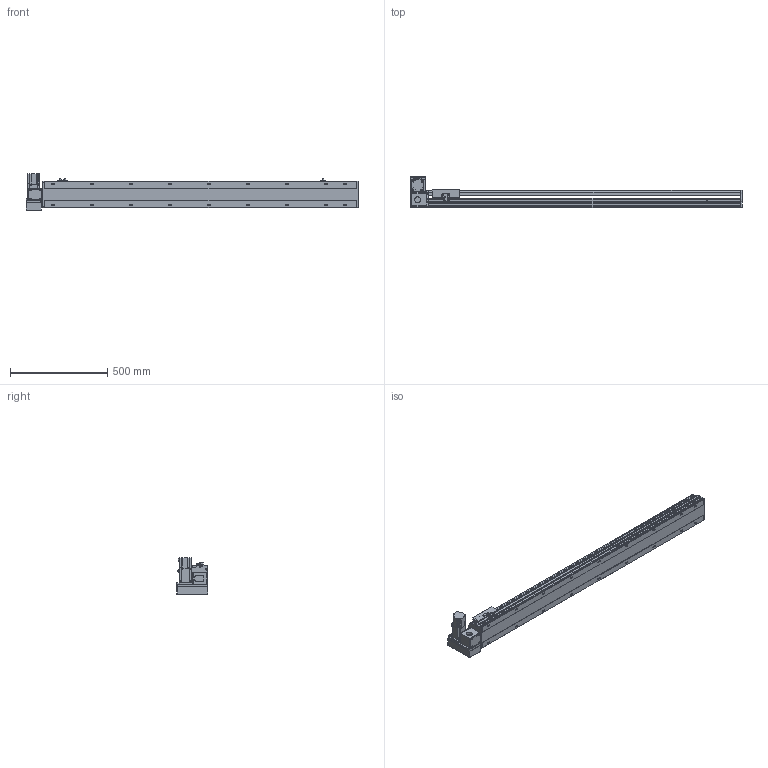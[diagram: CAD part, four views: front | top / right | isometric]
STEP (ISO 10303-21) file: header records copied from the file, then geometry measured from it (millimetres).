
FILE_DESCRIPTION(/* description */ ('STEP AP214'),/* implementation_level */ '2;1');
FILE_NAME(/* name */ 'PBS140S-P40-S1350-LU-T40-C1-N(0)',/* time_stamp */ '2022-06-09T02:34:35+02:00',/* author */ ('License CC BY-ND 4.0'),/* organization */ ('CADENAS'),/* preprocessor_version */ 'ST-DEVELOPER v18.102',/* originating_system */ 'PARTsolutions',/* authorisation */ ' ');
FILE_SCHEMA (('AUTOMOTIVE_DESIGN {1 0 10303 214 3 1 1}'));
Length unit declared in the file: millimetre
Products named in the file (7): PBS140S-P40-S1350-LU-T40-C1-N(0); PBS140S_sensor; PBS140S_plant; PBS140S_sliser; T40-p1; PBS140ST-LU_motors; PBS140S-S1350()_body
Assembly tree (8 placements, depth 2):
  PBS140S-P40-S1350-LU-T40-C1-N(0)
    PBS140S_sensor  x3
    PBS140S_plant
    PBS140S_sliser
    T40-p1
    PBS140ST-LU_motors
    PBS140S-S1350()_body
Bounding box: 1704 x 162.5 x 189.7 mm (x, y, z)
Volume: 8632684.3 mm3; surface area: 1480140.2 mm2
Topology: 8 solids, 8 shells, 1115 faces, 2951 edges, 1931 vertices
Faces by surface type: plane 708, cylinder 353, cone 44, sphere 8, torus 2
Full cylindrical faces by diameter (mm): 3.242 x4, 4 x2, 4.134 x4, 4.4 x8, 4.5 x2, 4.8 x4, 4.917 x26, 5.5 x7, 6 x2, 7 x20, 7.5 x8, 8 x12, 8.5 x4, 10.5 x18, 14 x1, 30 x2, 50 x2
Entity records: 31954 total; most frequent: CARTESIAN_POINT 5928, DIRECTION 5418, ORIENTED_EDGE 5122, EDGE_CURVE 2561, AXIS2_PLACEMENT_3D 1889, VERTEX_POINT 1777, LINE 1640, VECTOR 1640
